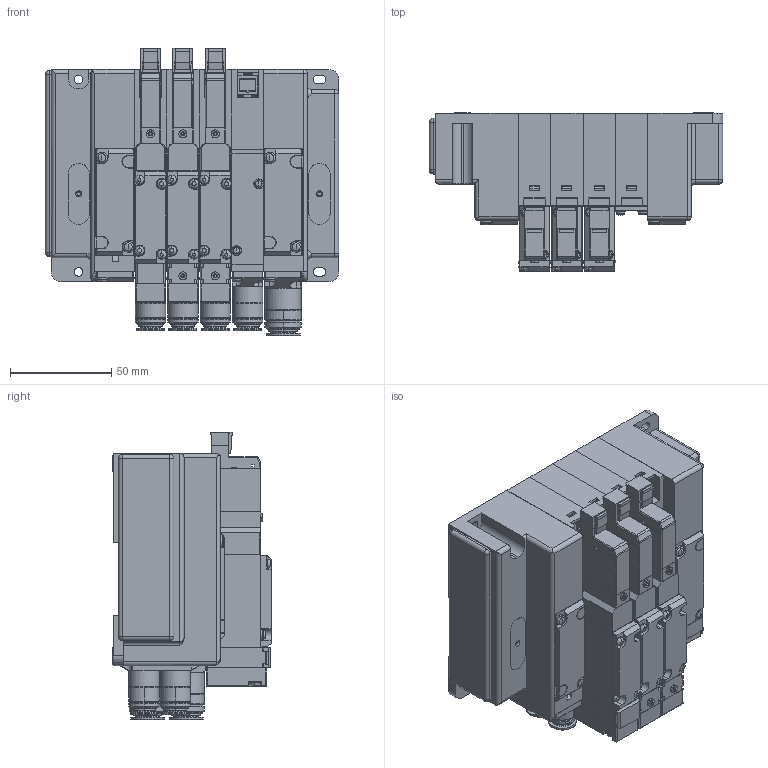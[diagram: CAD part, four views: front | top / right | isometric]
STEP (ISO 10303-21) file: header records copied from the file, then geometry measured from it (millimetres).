
FILE_DESCRIPTION( (''), '2;1');
FILE_NAME ('CVICAD02.4348.F15M4XNJ-JR_21207.stp','2021-07-12T19:11:31',(''),(''),'spGate 12.6.6','','');
FILE_SCHEMA (('AUTOMOTIVE_DESIGN'));
Length unit declared in the file: millimetre
Products named in the file (22): Assembly; CVICAD02-prt0; CVICAD02-prt1; CVICAD02-prt2; CVICAD02-prt3; CVICAD02-asm1; CVICAD02-asm2; CVICAD02-prt12; CVICAD02-prt13; CVICAD02-asm3; CVICAD02-asm4; CVICAD02-prt4; CVICAD02-prt5; CVICAD02-prt6; CVICAD02-prt7; CVICAD02-prt8; CVICAD02-prt9; CVICAD02-prt10; CVICAD02-prt11; CVICAD02-prt14; Y029261_キャップ(DINねじ穴用)_20190809; CVICAD02-prt16
Assembly tree (37 placements, depth 3):
  Assembly
    CVICAD02-prt0  x4
    CVICAD02-prt1
    CVICAD02-prt2  x3
    CVICAD02-prt3
    CVICAD02-asm1
      CVICAD02-prt4
      CVICAD02-prt5
      CVICAD02-prt6
      CVICAD02-prt7
      CVICAD02-prt8
      CVICAD02-prt9
      CVICAD02-prt10
    CVICAD02-asm2  x2
      CVICAD02-prt4
      CVICAD02-prt5
      CVICAD02-prt6
      CVICAD02-prt8
      CVICAD02-prt9
      CVICAD02-prt10
      CVICAD02-prt11
    CVICAD02-prt12
    CVICAD02-prt13  x4
    CVICAD02-asm3
      CVICAD02-prt14
      Y029261_キャップ(DINねじ穴用)_20190809
    CVICAD02-asm4
      Y029261_キャップ(DINねじ穴用)_20190809
      CVICAD02-prt16
Bounding box: 145 x 78.1 x 142.1 mm (x, y, z)
Volume: 806916.3 mm3; surface area: 211902.8 mm2
Topology: 39 solids, 39 shells, 3396 faces, 8701 edges, 5570 vertices
Faces by surface type: plane 2091, cylinder 929, bspline 334, sphere 42
Entity records: 75733 total; most frequent: CARTESIAN_POINT 10427, ORIENTED_EDGE 7412, DIRECTION 7021, COLOUR_RGB 5182, PRESENTATION_STYLE_ASSIGNMENT 5182, STYLED_ITEM 5182, EDGE_CURVE 3706, DRAUGHTING_PRE_DEFINED_CURVE_FONT 3706
